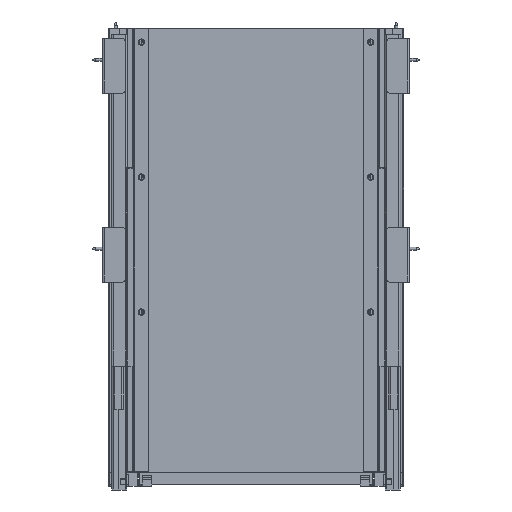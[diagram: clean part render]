
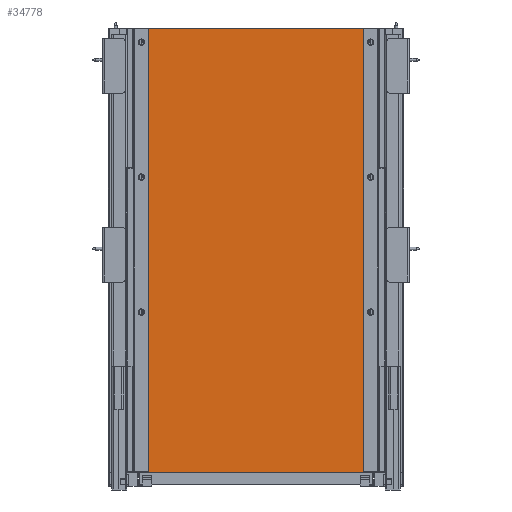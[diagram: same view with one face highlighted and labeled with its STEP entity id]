
A CAD part, front view. The second image highlights one B-rep face of the part: STEP entity #34778.
In plain terms, the highlighted planar face has unit normal (0, -1, 0).
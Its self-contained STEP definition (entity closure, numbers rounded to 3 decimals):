
#3368=FACE_OUTER_BOUND('',#5490,.T.);
#5490=EDGE_LOOP('',(#29763,#29764,#29765,#29766));
#8962=LINE('',#56832,#12876);
#8963=LINE('',#56835,#12877);
#8964=LINE('',#56837,#12878);
#8965=LINE('',#56838,#12879);
#12876=VECTOR('',#44694,10.);
#12877=VECTOR('',#44697,10.);
#12878=VECTOR('',#44698,10.);
#12879=VECTOR('',#44699,10.);
#16405=VERTEX_POINT('',#56825);
#16408=VERTEX_POINT('',#56830);
#16409=VERTEX_POINT('',#56834);
#16410=VERTEX_POINT('',#56836);
#20974=EDGE_CURVE('',#16405,#16408,#8962,.T.);
#20975=EDGE_CURVE('',#16409,#16405,#8963,.T.);
#20976=EDGE_CURVE('',#16410,#16408,#8964,.T.);
#20977=EDGE_CURVE('',#16409,#16410,#8965,.T.);
#29763=ORIENTED_EDGE('',*,*,#20975,.T.);
#29764=ORIENTED_EDGE('',*,*,#20974,.T.);
#29765=ORIENTED_EDGE('',*,*,#20976,.F.);
#29766=ORIENTED_EDGE('',*,*,#20977,.F.);
#32976=PLANE('',#37266);
#34778=ADVANCED_FACE('',(#3368),#32976,.T.);
#37266=AXIS2_PLACEMENT_3D('',#56833,#44695,#44696);
#44694=DIRECTION('',(0.,0.,-1.));
#44695=DIRECTION('center_axis',(0.,-1.,0.));
#44696=DIRECTION('ref_axis',(-1.,0.,0.));
#44697=DIRECTION('',(-1.,0.,0.));
#44698=DIRECTION('',(-1.,0.,0.));
#44699=DIRECTION('',(0.,0.,-1.));
#56825=CARTESIAN_POINT('',(-144.5,22.,11.5));
#56830=CARTESIAN_POINT('',(-144.5,22.,-514.5));
#56832=CARTESIAN_POINT('',(-144.5,22.,11.5));
#56833=CARTESIAN_POINT('Origin',(144.5,22.,11.5));
#56834=CARTESIAN_POINT('',(144.5,22.,11.5));
#56835=CARTESIAN_POINT('',(144.5,22.,11.5));
#56836=CARTESIAN_POINT('',(144.5,22.,-514.5));
#56837=CARTESIAN_POINT('',(144.5,22.,-514.5));
#56838=CARTESIAN_POINT('',(144.5,22.,11.5));
